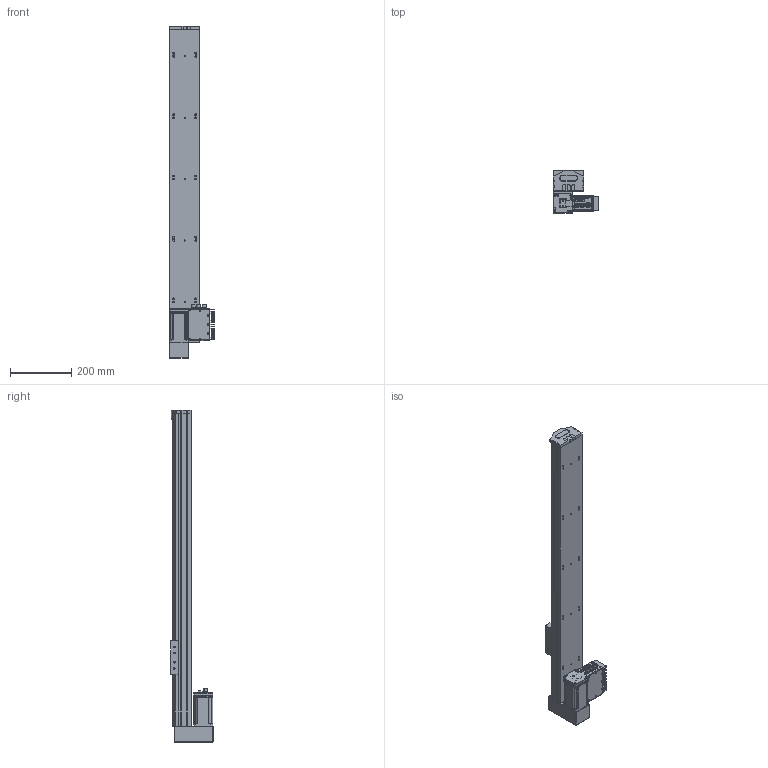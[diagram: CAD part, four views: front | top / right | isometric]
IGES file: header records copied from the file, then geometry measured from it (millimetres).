
Start section: SolidWorks IGES file using analytic representation for surfaces
Global section: file name: C:\Documents and Settings\1EDPI\Mes documents\yanize\S 10 TSH BM\S 10 TSH BM S800.IGS; native system: SolidWorks 2010; preprocessor: SolidWorks 2010; author: 1EDPI; date: 120907.134833; units: millimetre
Bounding box: 149.38 x 138.75 x 1082 mm (x, y, z)
Surface area: 795735.3 mm2 (no closed solid volume)
Topology: 0 solids, 0 shells, 1987 faces, 26836 edges, 26804 vertices
Faces by surface type: revolution 1057, bspline 930
